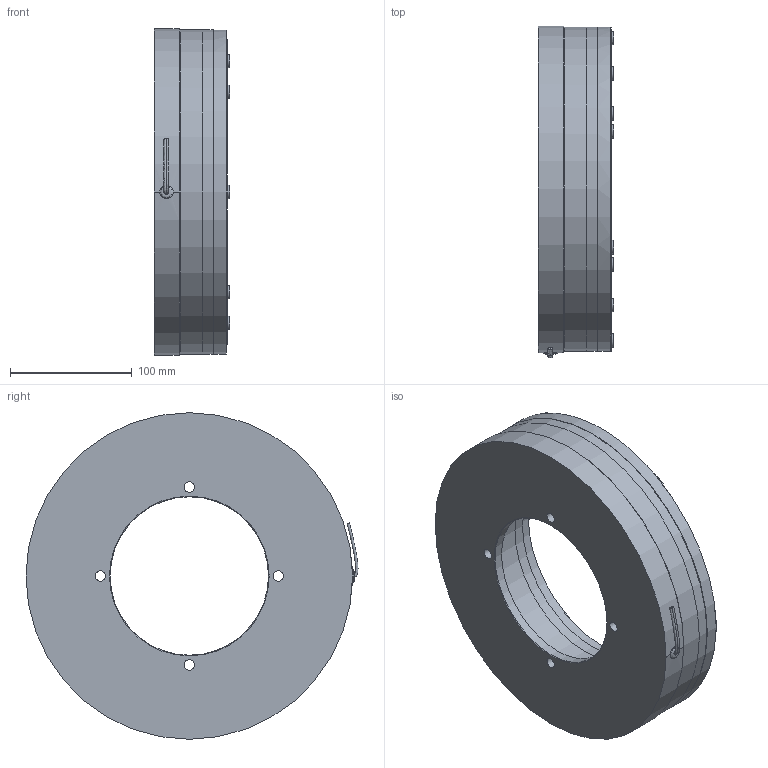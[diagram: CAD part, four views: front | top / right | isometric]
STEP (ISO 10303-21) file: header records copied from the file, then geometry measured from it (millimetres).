
FILE_DESCRIPTION(/* description */ (''),/* implementation_level */ '2;1');
FILE_NAME(/* name */ 'X:\INVENTOR\DISEGNI\08_Freni_Friz_Elettmag_Monodisco\08_28 EMFL_DF\EMFL_DF STEP\08_28_260_11 EMFL260_DF-B@STEP.stp',/* time_stamp */ '2018-04-23T16:09:23+02:00',/* author */ ('stefano'),/* organization */ (''),/* preprocessor_version */ 'ST-DEVELOPER v17',/* originating_system */ 'Autodesk Inventor 2018',/* authorisation */ '');
FILE_SCHEMA (('AUTOMOTIVE_DESIGN { 1 0 10303 214 3 1 1 }'));
Length unit declared in the file: millimetre
Products named in the file (1): 08_28_260_11 EMFL260_DF-B_Substitute_1
Bounding box: 62 x 272.44 x 268 mm (x, y, z)
Volume: 2032257.7 mm3; surface area: 305214.3 mm2
Topology: 2 solids, 2 shells, 367 faces, 1110 edges, 721 vertices
Faces by surface type: cylinder 246, plane 80, cone 38, bspline 3
Full cylindrical faces by diameter (mm): 4 x1, 7 x12, 7.1 x24, 8.1 x6, 8.5 x4, 9 x1, 11 x37, 130 x1, 162 x2, 170 x1, 194 x1, 243 x1, 266 x3
Entity records: 14014 total; most frequent: CARTESIAN_POINT 2669, DIRECTION 2621, ORIENTED_EDGE 2210, AXIS2_PLACEMENT_3D 1166, EDGE_CURVE 1105, CIRCLE 801, VERTEX_POINT 722, EDGE_LOOP 466
